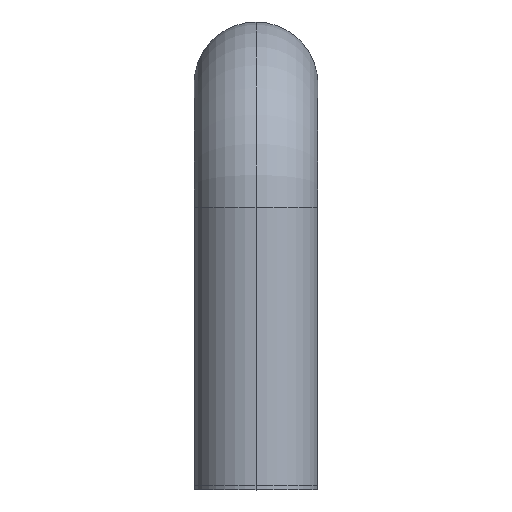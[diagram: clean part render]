
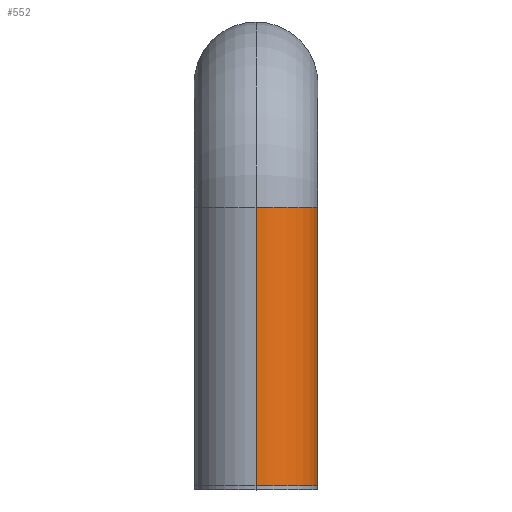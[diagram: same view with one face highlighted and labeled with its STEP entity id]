
A CAD part, top view. The second image highlights one B-rep face of the part: STEP entity #552.
In plain terms, the highlighted cylindrical face has radius 8 mm (diameter 16 mm), a partial arc.
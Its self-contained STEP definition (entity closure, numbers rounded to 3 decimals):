
#3 = CIRCLE ( 'NONE', #569, 8. ) ;
#33 = CARTESIAN_POINT ( 'NONE',  ( 0., 0., 0. ) ) ;
#46 = ORIENTED_EDGE ( 'NONE', *, *, #182, .T. ) ;
#47 = CARTESIAN_POINT ( 'NONE',  ( 0., 36., 0. ) ) ;
#54 = DIRECTION ( 'NONE',  ( 0., 0., 1. ) ) ;
#55 = DIRECTION ( 'NONE',  ( 0., 1., 0. ) ) ;
#73 = VECTOR ( 'NONE', #55, 1000. ) ;
#93 = VECTOR ( 'NONE', #331, 1000. ) ;
#96 = DIRECTION ( 'NONE',  ( 0., 1., 0. ) ) ;
#102 = CYLINDRICAL_SURFACE ( 'NONE', #105, 8. ) ;
#105 = AXIS2_PLACEMENT_3D ( 'NONE', #378, #96, #54 ) ;
#136 = AXIS2_PLACEMENT_3D ( 'NONE', #47, #627, #233 ) ;
#138 = EDGE_LOOP ( 'NONE', ( #364, #46, #149, #419 ) ) ;
#149 = ORIENTED_EDGE ( 'NONE', *, *, #537, .F. ) ;
#154 = CARTESIAN_POINT ( 'NONE',  ( 0., 0., -8. ) ) ;
#161 = EDGE_CURVE ( 'NONE', #374, #542, #582, .T. ) ;
#182 = EDGE_CURVE ( 'NONE', #415, #579, #202, .T. ) ;
#193 = FACE_OUTER_BOUND ( 'NONE', #138, .T. ) ;
#202 = LINE ( 'NONE', #154, #93 ) ;
#212 = DIRECTION ( 'NONE',  ( 0., 1., 0. ) ) ;
#233 = DIRECTION ( 'NONE',  ( 0., 0., 1. ) ) ;
#287 = EDGE_CURVE ( 'NONE', #374, #415, #3, .T. ) ;
#309 = CARTESIAN_POINT ( 'NONE',  ( 0., 0., -8. ) ) ;
#331 = DIRECTION ( 'NONE',  ( 0., 1., 0. ) ) ;
#338 = CARTESIAN_POINT ( 'NONE',  ( 0., 36., -8. ) ) ;
#364 = ORIENTED_EDGE ( 'NONE', *, *, #287, .T. ) ;
#374 = VERTEX_POINT ( 'NONE', #410 ) ;
#378 = CARTESIAN_POINT ( 'NONE',  ( 0., 0., 0. ) ) ;
#410 = CARTESIAN_POINT ( 'NONE',  ( 0., 0., 8. ) ) ;
#415 = VERTEX_POINT ( 'NONE', #309 ) ;
#419 = ORIENTED_EDGE ( 'NONE', *, *, #161, .F. ) ;
#432 = CARTESIAN_POINT ( 'NONE',  ( 0., 36., 8. ) ) ;
#535 = CARTESIAN_POINT ( 'NONE',  ( 0., 0., 8. ) ) ;
#537 = EDGE_CURVE ( 'NONE', #542, #579, #589, .T. ) ;
#542 = VERTEX_POINT ( 'NONE', #432 ) ;
#552 = ADVANCED_FACE ( 'NONE', ( #193 ), #102, .T. ) ;
#554 = DIRECTION ( 'NONE',  ( 0., 0., 1. ) ) ;
#569 = AXIS2_PLACEMENT_3D ( 'NONE', #33, #212, #554 ) ;
#579 = VERTEX_POINT ( 'NONE', #338 ) ;
#582 = LINE ( 'NONE', #535, #73 ) ;
#589 = CIRCLE ( 'NONE', #136, 8. ) ;
#627 = DIRECTION ( 'NONE',  ( 0., 1., 0. ) ) ;
